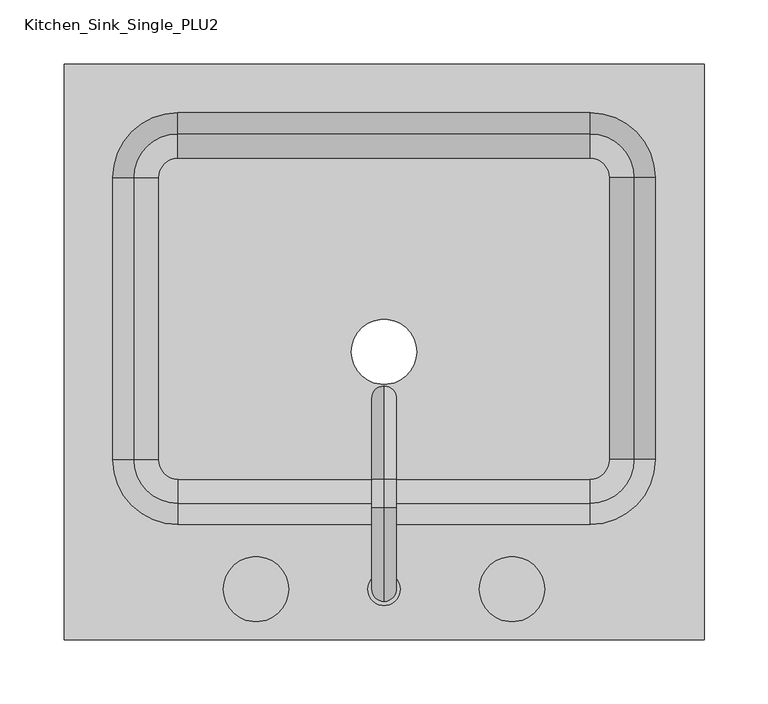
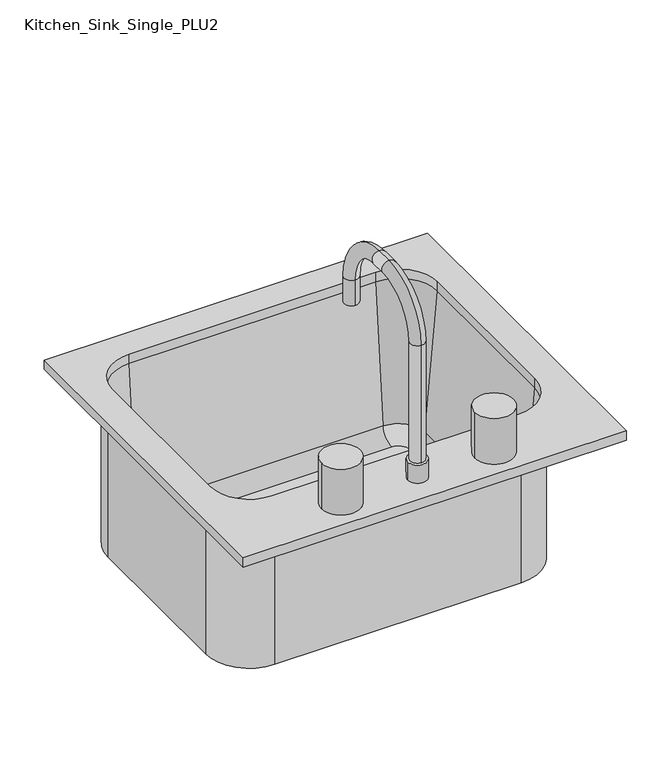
"""IFC4 building model written with IfcOpenShell, lengths in millimetres: flow terminal geometry, Kitchen_Sink_Single_PLU2 : Kitchen  Sink."""

from ifc_helpers import new_model, si_unit, point, frame, frame_2d, origin, origin_with_axes, place, context, project, spatial, polyline, circle_curve, ellipse_curve, trimmed, segment, composite_curve, outline, extrude, source, transform, mapped, element, save
from ifc_brep_helpers import plane_surface, cylinder_surface, revolved_surface, advanced_brep


def kitchen_sink_single_plu2_d50bff54(model_context):
    return source(origin(), model_context, "Body", "SolidModel", [
        extrude(outline(polyline([(250.0, -225.0), (-250.0, -225.0), (-250.0, 225.0), (250.0, 225.0), (250.0, -225.0)]), holes=[composite_curve([segment(trimmed(circle_curve(frame_2d((161.1, -84.2710828)), 50.8), [point((161.1, -135.0710828))], [point((211.9, -84.2710828))], True, "CARTESIAN"), True, "CONTINUOUS"), segment(polyline([(211.9, -84.2710828), (211.9, 136.1)]), True, "CONTINUOUS"), segment(trimmed(circle_curve(frame_2d((161.1, 136.1)), 50.8), [point((211.9, 136.1))], [point((161.1, 186.9))], True, "CARTESIAN"), True, "CONTINUOUS"), segment(polyline([(161.1, 186.9), (-161.1, 186.9)]), True, "CONTINUOUS"), segment(trimmed(circle_curve(frame_2d((-161.1, 136.1)), 50.8), [point((-161.1, 186.9))], [point((-211.9, 136.1))], True, "CARTESIAN"), True, "CONTINUOUS"), segment(polyline([(-211.9, 136.1), (-211.9, -84.2710828)]), True, "CONTINUOUS"), segment(trimmed(circle_curve(frame_2d((-161.1, -84.2710828)), 50.8), [point((-211.9, -84.2710828))], [point((-161.1, -135.0710828))], True, "CARTESIAN"), True, "CONTINUOUS"), segment(polyline([(-161.1, -135.0710828), (161.1, -135.0710828)]), True, "CONTINUOUS")], self_intersect=False)]), origin_with_axes(), (0.0, 0.0, 1.0), 12.7),
        extrude(outline(composite_curve([segment(trimmed(circle_curve(frame_2d((0.0, -185.59958)), 12.7), [point((-12.7, -185.59958))], [point((12.7, -185.59958))], False, "CARTESIAN"), True, "CONTINUOUS"), segment(trimmed(circle_curve(frame_2d((0.0, -185.59958)), 12.7), [point((12.7, -185.59958))], [point((-12.7, -185.59958))], False, "CARTESIAN"), True, "CONTINUOUS")], self_intersect=False)), frame((0.0, 0.0, 12.7), z_axis=(0.0, 0.0, 1.0), x_axis=(1.0, 0.0, 0.0)), (0.0, 0.0, 1.0), 25.4),
        advanced_brep(
        [(0.0, -195.12458, 12.7), (0.0, -176.07458, 12.7), (0.0, -176.07458, 200.025), (0.0, -195.12458, 200.025), (0.0, -122.09958, 254.0), (0.0, -122.09958, 273.05), (0.0, -99.87458, 254.0), (0.0, -99.87458, 273.05), (0.0, -45.89958, 200.025), (0.0, -26.84958, 200.025), (0.0, -26.84958, 165.1), (0.0, -45.89958, 165.1)],
        [
            (0, 1, circle_curve(frame((0.0, -185.59958, 12.7), z_axis=(0.0, 0.0, -1.0), x_axis=(0.0, 1.0, 0.0)), 9.525)),
            (1, 0, circle_curve(frame((0.0, -185.59958, 12.7), z_axis=(0.0, 0.0, -1.0), x_axis=(0.0, 1.0, 0.0)), 9.525)),
            (1, 2),
            (2, 3, circle_curve(frame((0.0, -185.59958, 200.025), z_axis=(0.0, 0.0, -1.0), x_axis=(0.0, 1.0, 0.0)), 9.525)),
            (3, 0),
            (3, 2, circle_curve(frame((0.0, -185.59958, 200.025), z_axis=(0.0, 0.0, -1.0), x_axis=(0.0, 1.0, 0.0)), 9.525)),
            (4, 5, circle_curve(frame((0.0, -122.09958, 263.525), z_axis=(0.0, -1.0, 0.0), x_axis=(0.0, 0.0, -1.0)), 9.525)),
            (5, 3, circle_curve(frame((0.0, -122.09958, 200.025), z_axis=(1.0, 0.0, 0.0), x_axis=(0.0, -1.0, 0.0)), 73.025)),
            (2, 4, circle_curve(frame((0.0, -122.09958, 200.025), z_axis=(-1.0, 0.0, 0.0), x_axis=(0.0, -1.0, 0.0)), 53.975)),
            (5, 4, circle_curve(frame((0.0, -122.09958, 263.525), z_axis=(0.0, -1.0, 0.0), x_axis=(0.0, 0.0, -1.0)), 9.525)),
            (4, 6),
            (6, 7, circle_curve(frame((0.0, -99.87458, 263.525), z_axis=(0.0, -1.0, 0.0), x_axis=(0.0, 0.0, -1.0)), 9.525)),
            (7, 5),
            (7, 6, circle_curve(frame((0.0, -99.87458, 263.525), z_axis=(0.0, -1.0, 0.0), x_axis=(0.0, 0.0, -1.0)), 9.525)),
            (8, 9, circle_curve(frame((0.0, -36.37458, 200.025), z_axis=(0.0, 0.0, 1.0), x_axis=(0.0, -1.0, 0.0)), 9.525)),
            (9, 7, circle_curve(frame((0.0, -99.87458, 200.025), z_axis=(1.0, 0.0, 0.0), x_axis=(0.0, 0.0, 1.0)), 73.025)),
            (6, 8, circle_curve(frame((0.0, -99.87458, 200.025), z_axis=(-1.0, 0.0, 0.0), x_axis=(0.0, 0.0, 1.0)), 53.975)),
            (9, 8, circle_curve(frame((0.0, -36.37458, 200.025), z_axis=(0.0, 0.0, 1.0), x_axis=(0.0, -1.0, 0.0)), 9.525)),
            (10, 11, circle_curve(frame((0.0, -36.37458, 165.1), z_axis=(0.0, 0.0, -1.0), x_axis=(0.0, -1.0, 0.0)), 9.525)),
            (11, 10, circle_curve(frame((0.0, -36.37458, 165.1), z_axis=(0.0, 0.0, -1.0), x_axis=(0.0, -1.0, 0.0)), 9.525)),
            (8, 11),
            (10, 9),
        ],
        [
            plane_surface(frame((0.0, -176.07458, 12.7), z_axis=(0.0, 0.0, -1.0), x_axis=(1.0, 0.0, 0.0))),
            cylinder_surface(frame((0.0, -185.59958, 12.7), z_axis=(0.0, 0.0, -1.0), x_axis=(0.0, 1.0, 0.0)), 9.525),
            revolved_surface(trimmed(ellipse_curve(frame((0.0, -185.59958, 200.025), z_axis=(0.0, 0.0, 1.0), x_axis=(0.0, 1.0, 0.0)), 9.525, 9.525), [point((0.0, -195.12458, 200.025))], [point((0.0, -176.07458, 200.025))], True, "CARTESIAN"), (0.0, -122.09958, 200.025), (1.0, 0.0, 0.0)),
            revolved_surface(trimmed(ellipse_curve(frame((0.0, -185.59958, 200.025), z_axis=(0.0, 0.0, 1.0), x_axis=(0.0, 1.0, 0.0)), 9.525, 9.525), [point((0.0, -176.07458, 200.025))], [point((0.0, -195.12458, 200.025))], True, "CARTESIAN"), (0.0, -122.09958, 200.025), (1.0, 0.0, 0.0)),
            cylinder_surface(frame((0.0, -122.09958, 263.525), z_axis=(0.0, -1.0, 0.0), x_axis=(0.0, 0.0, -1.0)), 9.525),
            revolved_surface(trimmed(ellipse_curve(frame((0.0, -99.87458, 263.525), z_axis=(0.0, 1.0, 0.0), x_axis=(0.0, 0.0, -1.0)), 9.525, 9.525), [point((0.0, -99.87458, 273.05))], [point((0.0, -99.87458, 254.0))], True, "CARTESIAN"), (0.0, -99.87458, 200.025), (1.0, 0.0, 0.0)),
            revolved_surface(trimmed(ellipse_curve(frame((0.0, -99.87458, 263.525), z_axis=(0.0, 1.0, 0.0), x_axis=(0.0, 0.0, -1.0)), 9.525, 9.525), [point((0.0, -99.87458, 254.0))], [point((0.0, -99.87458, 273.05))], True, "CARTESIAN"), (0.0, -99.87458, 200.025), (1.0, 0.0, 0.0)),
            plane_surface(frame((0.0, -26.84958, 165.1), z_axis=(0.0, 0.0, -1.0), x_axis=(-1.0, 0.0, 0.0))),
            cylinder_surface(frame((0.0, -36.37458, 200.025), z_axis=(0.0, 0.0, 1.0), x_axis=(0.0, -1.0, 0.0)), 9.525),
        ],
        [
            (0, [[1, 2]]),
            (1, [[3, 4, 5, -2]]),
            (1, [[-5, 6, -3, -1]]),
            (2, [[7, 8, -4, 9]]),
            (3, [[10, -9, -6, -8]]),
            (4, [[11, 12, 13, -7]]),
            (4, [[-13, 14, -11, -10]]),
            (5, [[15, 16, -12, 17]]),
            (6, [[18, -17, -14, -16]]),
            (7, [[19, 20]]),
            (8, [[21, -19, 22, -15]]),
            (8, [[-22, -20, -21, -18]]),
        ],
    ),
        extrude(outline(composite_curve([segment(trimmed(circle_curve(frame_2d((-100.0, -185.59958)), 25.4), [point((-125.4, -185.59958))], [point((-74.6, -185.59958))], False, "CARTESIAN"), True, "CONTINUOUS"), segment(trimmed(circle_curve(frame_2d((-100.0, -185.59958)), 25.4), [point((-74.6, -185.59958))], [point((-125.4, -185.59958))], False, "CARTESIAN"), True, "CONTINUOUS")], self_intersect=False)), frame((0.0, 0.0, 12.7), z_axis=(0.0, 0.0, 1.0), x_axis=(1.0, 0.0, 0.0)), (0.0, 0.0, 1.0), 63.5),
        extrude(outline(composite_curve([segment(trimmed(circle_curve(frame_2d((100.0, -185.59958)), 25.4), [point((74.6, -185.59958))], [point((125.4, -185.59958))], False, "CARTESIAN"), True, "CONTINUOUS"), segment(trimmed(circle_curve(frame_2d((100.0, -185.59958)), 25.4), [point((125.4, -185.59958))], [point((74.6, -185.59958))], False, "CARTESIAN"), True, "CONTINUOUS")], self_intersect=False)), frame((0.0, 0.0, 12.7), z_axis=(0.0, 0.0, 1.0), x_axis=(1.0, 0.0, 0.0)), (0.0, 0.0, 1.0), 63.5),
        advanced_brep(
        [(218.25, -84.2710828, -215.9), (218.25, -84.2710828, 0.0), (161.1, -141.4210828, 0.0), (161.1, -141.4210828, -215.9), (195.3659272, -84.2710828, -188.9853169), (176.3884182, -84.2710828, -206.375), (161.1, -99.559501, -206.375), (161.1, -118.53701, -188.9853169), (161.1, -135.0710828, 0.0), (211.9, -84.2710828, 0.0), (218.25, 136.1, -215.9), (218.25, 136.1, 0.0), (195.3659272, 136.1, -188.9853169), (176.3884182, 136.1, -206.375), (211.9, 136.1, 0.0), (161.1, 193.25, -215.9), (161.1, 193.25, 0.0), (161.1, 170.3659272, -188.9853169), (161.1, 151.3884182, -206.375), (161.1, 186.9, 0.0), (-161.1, 193.25, -215.9), (-161.1, 193.25, 0.0), (-161.1, 170.3659272, -188.9853169), (-161.1, 151.3884182, -206.375), (-161.1, 186.9, 0.0), (-218.25, 136.1, -215.9), (-218.25, 136.1, 0.0), (-195.3659272, 136.1, -188.9853169), (-176.3884182, 136.1, -206.375), (-211.9, 136.1, 0.0), (-218.25, -84.2710828, -215.9), (-218.25, -84.2710828, 0.0), (-195.3659272, -84.2710828, -188.9853169), (-176.3884182, -84.2710828, -206.375), (-211.9, -84.2710828, 0.0), (-161.1, -141.4210828, -215.9), (-161.1, -141.4210828, 0.0), (-161.1, -118.53701, -188.9853169), (-161.1, -99.559501, -206.375), (-161.1, -135.0710828, 0.0), (-25.4, 0.0, -215.9), (25.4, 0.0, -215.9), (-25.4, 0.0, -206.375), (25.4, 0.0, -206.375)],
        [
            (0, 1),
            (1, 2, circle_curve(frame((161.1, -84.2710828, 0.0), z_axis=(0.0, 0.0, -1.0), x_axis=(0.0, -1.0, 0.0)), 57.15)),
            (2, 3),
            (3, 0, circle_curve(frame((161.1, -84.2710828, -215.9), z_axis=(0.0, 0.0, 1.0), x_axis=(0.0, -1.0, 0.0)), 57.15)),
            (4, 5, circle_curve(frame((176.3884182, -84.2710828, -187.325), z_axis=(0.0, 1.0, 0.0), x_axis=(1.0, 0.0, 0.0)), 19.05)),
            (5, 6, circle_curve(frame((161.1, -84.2710828, -206.375), z_axis=(0.0, 0.0, -1.0), x_axis=(0.0, -1.0, 0.0)), 15.2884182)),
            (6, 7, circle_curve(frame((161.1, -99.559501, -187.325), z_axis=(-1.0, 0.0, 0.0), x_axis=(0.0, -1.0, 0.0)), 19.05)),
            (7, 4, circle_curve(frame((161.1, -84.2710828, -188.9853169), z_axis=(0.0, 0.0, 1.0), x_axis=(0.0, -1.0, 0.0)), 34.2659272)),
            (7, 8),
            (8, 9, circle_curve(frame((161.1, -84.2710828, 0.0), z_axis=(0.0, 0.0, 1.0), x_axis=(0.0, -1.0, 0.0)), 50.8)),
            (9, 4),
            (0, 10),
            (10, 11),
            (11, 1),
            (4, 12),
            (12, 13, circle_curve(frame((176.3884182, 136.1, -187.325), z_axis=(0.0, 1.0, 0.0), x_axis=(1.0, 0.0, 0.0)), 19.05)),
            (13, 5),
            (9, 14),
            (14, 12),
            (10, 15, circle_curve(frame((161.1, 136.1, -215.9), z_axis=(0.0, 0.0, 1.0), x_axis=(1.0, 0.0, 0.0)), 57.15)),
            (15, 16),
            (16, 11, circle_curve(frame((161.1, 136.1, 0.0), z_axis=(0.0, 0.0, -1.0), x_axis=(1.0, 0.0, 0.0)), 57.15)),
            (12, 17, circle_curve(frame((161.1, 136.1, -188.9853169), z_axis=(0.0, 0.0, 1.0), x_axis=(1.0, 0.0, 0.0)), 34.2659272)),
            (17, 18, circle_curve(frame((161.1, 151.3884182, -187.325), z_axis=(-1.0, 0.0, 0.0), x_axis=(0.0, 1.0, 0.0)), 19.05)),
            (18, 13, circle_curve(frame((161.1, 136.1, -206.375), z_axis=(0.0, 0.0, -1.0), x_axis=(1.0, 0.0, 0.0)), 15.2884182)),
            (14, 19, circle_curve(frame((161.1, 136.1, 0.0), z_axis=(0.0, 0.0, 1.0), x_axis=(1.0, 0.0, 0.0)), 50.8)),
            (19, 17),
            (15, 20),
            (20, 21),
            (21, 16),
            (17, 22),
            (22, 23, circle_curve(frame((-161.1, 151.3884182, -187.325), z_axis=(-1.0, 0.0, 0.0), x_axis=(0.0, 1.0, 0.0)), 19.05)),
            (23, 18),
            (19, 24),
            (24, 22),
            (20, 25, circle_curve(frame((-161.1, 136.1, -215.9), z_axis=(0.0, 0.0, 1.0), x_axis=(0.0, 1.0, 0.0)), 57.15)),
            (25, 26),
            (26, 21, circle_curve(frame((-161.1, 136.1, 0.0), z_axis=(0.0, 0.0, -1.0), x_axis=(0.0, 1.0, 0.0)), 57.15)),
            (22, 27, circle_curve(frame((-161.1, 136.1, -188.9853169), z_axis=(0.0, 0.0, 1.0), x_axis=(0.0, 1.0, 0.0)), 34.2659272)),
            (27, 28, circle_curve(frame((-176.3884182, 136.1, -187.325), z_axis=(0.0, -1.0, 0.0), x_axis=(-1.0, 0.0, 0.0)), 19.05)),
            (28, 23, circle_curve(frame((-161.1, 136.1, -206.375), z_axis=(0.0, 0.0, -1.0), x_axis=(0.0, 1.0, 0.0)), 15.2884182)),
            (24, 29, circle_curve(frame((-161.1, 136.1, 0.0), z_axis=(0.0, 0.0, 1.0), x_axis=(0.0, 1.0, 0.0)), 50.8)),
            (29, 27),
            (25, 30),
            (30, 31),
            (31, 26),
            (27, 32),
            (32, 33, circle_curve(frame((-176.3884182, -84.2710828, -187.325), z_axis=(0.0, -1.0, 0.0), x_axis=(-1.0, 0.0, 0.0)), 19.05)),
            (33, 28),
            (29, 34),
            (34, 32),
            (30, 35, circle_curve(frame((-161.1, -84.2710828, -215.9), z_axis=(0.0, 0.0, 1.0), x_axis=(-1.0, 0.0, 0.0)), 57.15)),
            (35, 36),
            (36, 31, circle_curve(frame((-161.1, -84.2710828, 0.0), z_axis=(0.0, 0.0, -1.0), x_axis=(-1.0, 0.0, 0.0)), 57.15)),
            (32, 37, circle_curve(frame((-161.1, -84.2710828, -188.9853169), z_axis=(0.0, 0.0, 1.0), x_axis=(-1.0, 0.0, 0.0)), 34.2659272)),
            (37, 38, circle_curve(frame((-161.1, -99.559501, -187.325), z_axis=(1.0, 0.0, 0.0), x_axis=(0.0, -1.0, 0.0)), 19.05)),
            (38, 33, circle_curve(frame((-161.1, -84.2710828, -206.375), z_axis=(0.0, 0.0, -1.0), x_axis=(-1.0, 0.0, 0.0)), 15.2884182)),
            (34, 39, circle_curve(frame((-161.1, -84.2710828, 0.0), z_axis=(0.0, 0.0, 1.0), x_axis=(-1.0, 0.0, 0.0)), 50.8)),
            (39, 37),
            (2, 36),
            (35, 3),
            (40, 41, circle_curve(frame((0.0, 0.0, -215.9), z_axis=(0.0, 0.0, 1.0), x_axis=(1.0, 0.0, 0.0)), 25.4)),
            (41, 40, circle_curve(frame((0.0, 0.0, -215.9), z_axis=(0.0, 0.0, 1.0), x_axis=(1.0, 0.0, 0.0)), 25.4)),
            (38, 6),
            (42, 43, circle_curve(frame((0.0, 0.0, -206.375), z_axis=(0.0, 0.0, -1.0), x_axis=(1.0, 0.0, 0.0)), 25.4)),
            (43, 42, circle_curve(frame((0.0, 0.0, -206.375), z_axis=(0.0, 0.0, -1.0), x_axis=(1.0, 0.0, 0.0)), 25.4)),
            (37, 7),
            (39, 8),
            (43, 41),
            (40, 42),
        ],
        [
            cylinder_surface(frame((161.1, -84.2710828, 0.0), z_axis=(0.0, 0.0, -1.0), x_axis=(0.0, -1.0, 0.0)), 57.15),
            revolved_surface(trimmed(ellipse_curve(frame((161.1, -99.559501, -187.325), z_axis=(-1.0, 0.0, 0.0), x_axis=(0.0, -1.0, 0.0)), 19.05, 19.05), [point((161.1, -99.559501, -206.375))], [point((161.1, -118.53701, -188.9853169))], True, "CARTESIAN"), (161.1, -84.2710828, 0.0), (0.0, 0.0, -1.0)),
            revolved_surface(polyline([(161.1, -118.53701, -188.9853169), (161.1, -135.0710828, 0.0)]), (161.1, -84.2710828, 0.0), (0.0, 0.0, -1.0)),
            plane_surface(frame((218.25, -84.2710828, 0.0), z_axis=(1.0, 0.0, 0.0), x_axis=(0.0, 1.0, 0.0))),
            revolved_surface(polyline([(195.4384182, 136.10000000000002, -187.325), (195.4384182, -84.2710828, -187.325)]), (176.3884182, -84.2710828, -187.325), (0.0, 1.0, 0.0)),
            plane_surface(frame((195.3659272, -84.2710828, -188.9853169), z_axis=(-0.9961946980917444, 0.0, 0.08715574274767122), x_axis=(0.0, 1.0, 0.0))),
            cylinder_surface(frame((161.1, 136.1, 0.0), z_axis=(0.0, 0.0, -1.0), x_axis=(1.0, 0.0, 0.0)), 57.15),
            revolved_surface(trimmed(ellipse_curve(frame((176.3884182, 136.1, -187.325), z_axis=(0.0, -1.0, 0.0), x_axis=(1.0, 0.0, 0.0)), 19.05, 19.05), [point((176.3884182, 136.1, -206.375))], [point((195.3659272, 136.1, -188.9853169))], True, "CARTESIAN"), (161.1, 136.1, 0.0), (0.0, 0.0, -1.0)),
            revolved_surface(polyline([(195.3659272, 136.1, -188.9853169), (211.9, 136.1, 0.0)]), (161.1, 136.1, 0.0), (0.0, 0.0, -1.0)),
            plane_surface(frame((161.1, 193.25, 0.0), z_axis=(0.0, 1.0, 0.0), x_axis=(-1.0, 0.0, 0.0))),
            revolved_surface(polyline([(-161.1, 170.4384182, -187.325), (161.1, 170.4384182, -187.325)]), (161.1, 151.3884182, -187.325), (-1.0, 0.0, 0.0)),
            plane_surface(frame((161.1, 170.3659272, -188.9853169), z_axis=(0.0, -0.9961946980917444, 0.08715574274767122), x_axis=(-1.0, 0.0, 0.0))),
            cylinder_surface(frame((-161.1, 136.1, 0.0), z_axis=(0.0, 0.0, -1.0), x_axis=(0.0, 1.0, 0.0)), 57.15),
            revolved_surface(trimmed(ellipse_curve(frame((-161.1, 151.3884182, -187.325), z_axis=(1.0, 0.0, 0.0), x_axis=(0.0, 1.0, 0.0)), 19.05, 19.05), [point((-161.1, 151.3884182, -206.375))], [point((-161.1, 170.3659272, -188.9853169))], True, "CARTESIAN"), (-161.1, 136.1, 0.0), (0.0, 0.0, -1.0)),
            revolved_surface(polyline([(-161.1, 170.3659272, -188.9853169), (-161.1, 186.9, 0.0)]), (-161.1, 136.1, 0.0), (0.0, 0.0, -1.0)),
            plane_surface(frame((-218.25, 136.1, 0.0), z_axis=(-1.0, 0.0, 0.0), x_axis=(0.0, -1.0, 0.0))),
            revolved_surface(polyline([(-195.4384182, -84.27108280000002, -187.325), (-195.4384182, 136.1, -187.325)]), (-176.3884182, 136.1, -187.325), (0.0, -1.0, 0.0)),
            plane_surface(frame((-195.3659272, 136.1, -188.9853169), z_axis=(0.9961946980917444, 0.0, 0.08715574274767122), x_axis=(0.0, -1.0, 0.0))),
            cylinder_surface(frame((-161.1, -84.2710828, 0.0), z_axis=(0.0, 0.0, -1.0), x_axis=(-1.0, 0.0, 0.0)), 57.15),
            revolved_surface(trimmed(ellipse_curve(frame((-176.3884182, -84.2710828, -187.325), z_axis=(0.0, 1.0, 0.0), x_axis=(-1.0, 0.0, 0.0)), 19.05, 19.05), [point((-176.3884182, -84.2710828, -206.375))], [point((-195.3659272, -84.2710828, -188.9853169))], True, "CARTESIAN"), (-161.1, -84.2710828, 0.0), (0.0, 0.0, -1.0)),
            revolved_surface(polyline([(-195.3659272, -84.2710828, -188.9853169), (-211.9, -84.2710828, 0.0)]), (-161.1, -84.2710828, 0.0), (0.0, 0.0, -1.0)),
            plane_surface(frame((-161.1, -141.4210828, 0.0), z_axis=(0.0, -1.0, 0.0), x_axis=(1.0, 0.0, 0.0))),
            plane_surface(frame((-161.1, -141.4210828, -215.9), z_axis=(0.0, 0.0, -1.0), x_axis=(1.0, 0.0, 0.0))),
            plane_surface(frame((-161.1, -96.9710828, -206.375), z_axis=(0.0, 0.0, 1.0), x_axis=(1.0, 0.0, 0.0))),
            revolved_surface(polyline([(161.1, -118.609501, -187.325), (-161.1, -118.609501, -187.325)]), (-161.1, -99.559501, -187.325), (1.0, 0.0, 0.0)),
            plane_surface(frame((-161.1, -118.53701, -188.9853169), z_axis=(0.0, 0.9961946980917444, 0.08715574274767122), x_axis=(1.0, 0.0, 0.0))),
            plane_surface(frame((-161.1, -135.0710828, 0.0), z_axis=(0.0, 0.0, 1.0), x_axis=(1.0, 0.0, 0.0))),
            revolved_surface(polyline([(25.4, 0.0, -215.89999999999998), (25.4, 0.0, -206.375)]), (0.0, 0.0, -900.0), (0.0, 0.0, -1.0)),
        ],
        [
            (0, [[1, 2, 3, 4]]),
            (1, [[5, 6, 7, 8]]),
            (2, [[9, 10, 11, -8]]),
            (3, [[12, 13, 14, -1]]),
            (4, [[15, 16, 17, -5]]),
            (5, [[18, 19, -15, -11]]),
            (6, [[20, 21, 22, -13]]),
            (7, [[23, 24, 25, -16]]),
            (8, [[26, 27, -23, -19]]),
            (9, [[28, 29, 30, -21]]),
            (10, [[31, 32, 33, -24]]),
            (11, [[34, 35, -31, -27]]),
            (12, [[36, 37, 38, -29]]),
            (13, [[39, 40, 41, -32]]),
            (14, [[42, 43, -39, -35]]),
            (15, [[44, 45, 46, -37]]),
            (16, [[47, 48, 49, -40]]),
            (17, [[50, 51, -47, -43]]),
            (18, [[52, 53, 54, -45]]),
            (19, [[55, 56, 57, -48]]),
            (20, [[58, 59, -55, -51]]),
            (21, [[60, -53, 61, -3]]),
            (22, [[-61, -52, -44, -36, -28, -20, -12, -4], [62, 63]]),
            (23, [[-17, -25, -33, -41, -49, -57, 64, -6], [65, 66]]),
            (24, [[-64, -56, 67, -7]]),
            (25, [[-67, -59, 68, -9]]),
            (26, [[-14, -22, -30, -38, -46, -54, -60, -2], [-68, -58, -50, -42, -34, -26, -18, -10]]),
            (27, [[69, -62, 70, -66]]),
            (27, [[-70, -63, -69, -65]]),
        ],
    ),
    ])


if __name__ == "__main__":
    model = new_model("IFC4")
    model_context = context("Model", 3, world=origin())
    ifc_project = project(units=[si_unit("LENGTHUNIT", "METRE", prefix="MILLI")], contexts=[model_context])
    site = spatial("IfcSite", under=ifc_project)
    building = spatial("IfcBuilding", under=site)
    placement = place(None, origin())
    kitchen_sink_single_plu2_shape = kitchen_sink_single_plu2_d50bff54(model_context)
    element("IfcFlowTerminal", 1, ObjectType="Kitchen_Sink_Single_PLU2 : Kitchen  Sink", at=placement, inside=building, context=model_context, shape_type="MappedRepresentation", body=[
        mapped(kitchen_sink_single_plu2_shape, transform((0.0, 0.0, 0.0), x_axis=(1.0, 0.0, 0.0), y_axis=(0.0, 1.0, 0.0), z_axis=(0.0, 0.0, 1.0))),
    ])
    save(model, "model.ifc")
